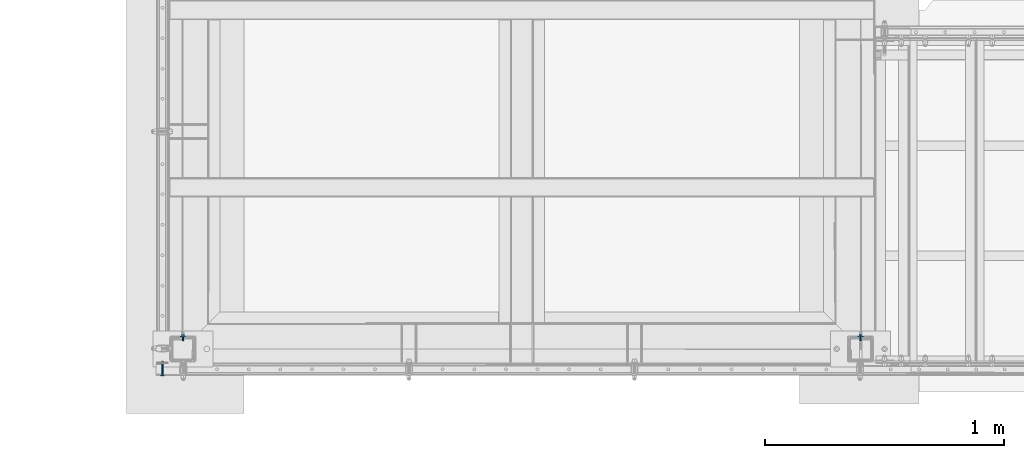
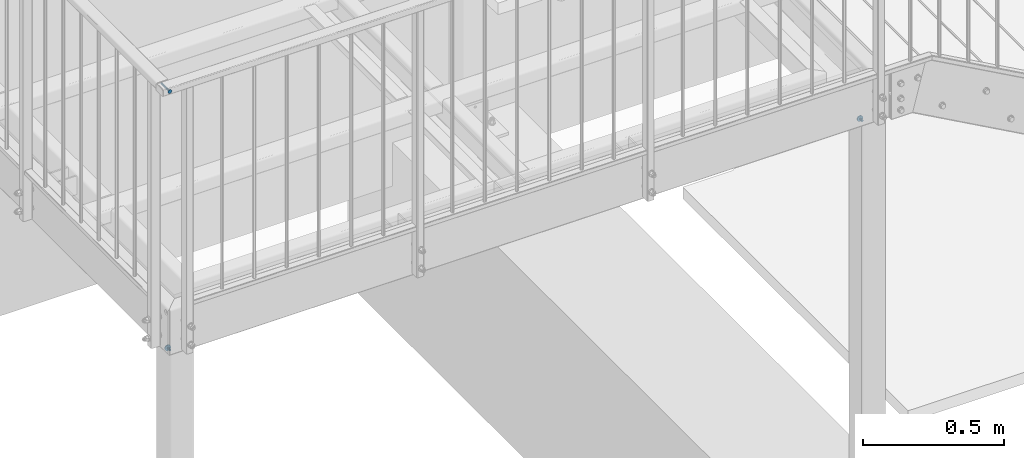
# One storey, part 34 of 116: 3 mechanical fasteners.
"""IFC2X3 building model written with IfcOpenShell, lengths in millimetres."""

from ifc_helpers import new_model, entity, si_unit, converted_unit, origin_with_axes, place, context, project, spatial, faceted_brep, element, save


model = new_model("IFC2X3")

# Units and contexts
model_context = context("Model", 3, precision=1e-09, world=origin_with_axes())
ifc_project = project(units=[si_unit("LENGTHUNIT", "METRE", prefix="MILLI"), si_unit("AREAUNIT", "SQUARE_METRE"), si_unit("VOLUMEUNIT", "CUBIC_METRE"), converted_unit("PLANEANGLEUNIT", "DEGREE", entity("IfcPlaneAngleMeasure", 0.01745329), si_unit("PLANEANGLEUNIT", "RADIAN"), dimensions=[0, 0, 0, 0, 0, 0, 0])], contexts=[model_context])

# Site, building, storey
site_placement = place(None, origin_with_axes())
site = spatial("IfcSite", under=ifc_project, at=site_placement, Name="Site", CompositionType="ELEMENT")
building_placement = place(site_placement, origin_with_axes())
building = spatial("IfcBuilding", under=site, at=building_placement, Name="Struktur 1", CompositionType="ELEMENT")
storey_placement = place(building_placement, origin_with_axes())
storey = spatial("IfcBuildingStorey", under=building, at=storey_placement, Name="Default Storey", CompositionType="ELEMENT", Elevation=0.0)

# Mechanical fasteners
mechanical_fastener_1_placement = place(None, origin_with_axes())
element("IfcMechanicalFastener", 1, at=mechanical_fastener_1_placement, inside=storey, ObjectType="-", NominalDiameter=8.0, NominalLength=55.0, context=model_context, shape_type="Brep", body=[
    faceted_brep([(55260.049134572, 9022.359883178, 980.0), (55260.049134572, 9021.359883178, 980.0), (55259.895416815, 9021.359883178, 978.439277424), (55259.895416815, 9022.359883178, 978.439277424), (55259.440170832, 9021.359883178, 976.938532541), (55259.440170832, 9022.359883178, 976.938532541), (55258.70089147, 9021.359883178, 975.555438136), (55258.70089147, 9022.359883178, 975.555438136), (55257.705988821, 9021.359883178, 974.343145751), (55257.705988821, 9022.359883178, 974.343145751), (55256.493696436, 9021.359883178, 973.348243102), (55256.493696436, 9022.359883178, 973.348243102), (55255.110602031, 9021.359883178, 972.60896374), (55255.110602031, 9022.359883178, 972.60896374), (55253.609857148, 9021.359883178, 972.153717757), (55253.609857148, 9022.359883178, 972.153717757), (55252.049134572, 9021.359883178, 972.0), (55252.049134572, 9022.359883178, 972.0), (55250.488411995, 9021.359883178, 972.153717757), (55250.488411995, 9022.359883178, 972.153717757), (55248.987667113, 9021.359883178, 972.60896374), (55248.987667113, 9022.359883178, 972.60896374), (55247.604572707, 9021.359883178, 973.348243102), (55247.604572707, 9022.359883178, 973.348243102), (55246.392280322, 9021.359883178, 974.343145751), (55246.392280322, 9022.359883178, 974.343145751), (55245.397377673, 9021.359883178, 975.555438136), (55245.397377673, 9022.359883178, 975.555438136), (55244.658098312, 9021.359883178, 976.938532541), (55244.658098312, 9022.359883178, 976.938532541), (55244.202852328, 9021.359883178, 978.439277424), (55244.202852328, 9022.359883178, 978.439277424), (55244.049134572, 9021.359883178, 980.0), (55244.049134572, 9022.359883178, 980.0), (55244.202852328, 9021.359883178, 981.560722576), (55244.202852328, 9022.359883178, 981.560722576), (55244.658098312, 9021.359883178, 983.061467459), (55244.658098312, 9022.359883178, 983.061467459), (55245.397377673, 9021.359883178, 984.444561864), (55245.397377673, 9022.359883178, 984.444561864), (55246.392280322, 9021.359883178, 985.65685425), (55246.392280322, 9022.359883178, 985.65685425), (55247.604572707, 9021.359883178, 986.651756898), (55247.604572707, 9022.359883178, 986.651756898), (55248.987667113, 9021.359883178, 987.39103626), (55248.987667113, 9022.359883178, 987.39103626), (55250.488411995, 9021.359883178, 987.846282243), (55250.488411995, 9022.359883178, 987.846282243), (55252.049134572, 9021.359883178, 988.0), (55252.049134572, 9022.359883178, 988.0), (55253.609857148, 9021.359883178, 987.846282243), (55253.609857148, 9022.359883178, 987.846282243), (55255.110602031, 9021.359883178, 987.39103626), (55255.110602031, 9022.359883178, 987.39103626), (55256.493696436, 9021.359883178, 986.651756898), (55256.493696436, 9022.359883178, 986.651756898), (55257.705988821, 9021.359883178, 985.65685425), (55257.705988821, 9022.359883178, 985.65685425), (55258.70089147, 9021.359883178, 984.444561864), (55258.70089147, 9022.359883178, 984.444561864), (55259.440170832, 9021.359883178, 983.061467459), (55259.440170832, 9022.359883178, 983.061467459), (55259.895416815, 9021.359883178, 981.560722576), (55259.895416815, 9022.359883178, 981.560722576)], [[[0, 1, 2, 3]], [[3, 2, 4, 5]], [[5, 4, 6, 7]], [[7, 6, 8, 9]], [[9, 8, 10, 11]], [[11, 10, 12, 13]], [[13, 12, 14, 15]], [[15, 14, 16, 17]], [[17, 16, 18, 19]], [[19, 18, 20, 21]], [[21, 20, 22, 23]], [[23, 22, 24, 25]], [[25, 24, 26, 27]], [[27, 26, 28, 29]], [[29, 28, 30, 31]], [[31, 30, 32, 33]], [[33, 32, 34, 35]], [[35, 34, 36, 37]], [[37, 36, 38, 39]], [[39, 38, 40, 41]], [[41, 40, 42, 43]], [[43, 42, 44, 45]], [[45, 44, 46, 47]], [[47, 46, 48, 49]], [[49, 48, 50, 51]], [[51, 50, 52, 53]], [[53, 52, 54, 55]], [[55, 54, 56, 57]], [[57, 56, 58, 59]], [[59, 58, 60, 61]], [[61, 60, 62, 63]], [[63, 62, 1, 0]], [[2, 1, 62, 60, 58, 56, 54, 52, 50, 48, 46, 44, 42, 40, 38, 36, 34, 32, 30, 28, 26, 24, 22, 20, 18, 16, 14, 12, 10, 8, 6, 4]], [[63, 0, 3, 5, 7, 9, 11, 13, 15, 17, 19, 21, 23, 25, 27, 29, 31, 33, 35, 37, 39, 41, 43, 45, 47, 49, 51, 53, 55, 57, 59, 61]]]),
    faceted_brep([(55256.049134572, 9080.358883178, 980.0), (55256.049134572, 9022.359883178, 980.0), (55255.744652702, 9022.359883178, 978.469266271), (55255.744652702, 9080.358883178, 978.469266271), (55254.877561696, 9022.359883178, 977.171572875), (55254.877561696, 9080.358883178, 977.171572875), (55253.579868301, 9022.359883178, 976.30448187), (55253.579868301, 9080.358883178, 976.30448187), (55252.049134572, 9022.359883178, 976.0), (55252.049134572, 9080.358883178, 976.0), (55250.518400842, 9022.359883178, 976.30448187), (55250.518400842, 9080.358883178, 976.30448187), (55249.220707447, 9022.359883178, 977.171572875), (55249.220707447, 9080.358883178, 977.171572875), (55248.353616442, 9022.359883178, 978.469266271), (55248.353616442, 9080.358883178, 978.469266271), (55248.049134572, 9022.359883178, 980.0), (55248.049134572, 9080.358883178, 980.0), (55248.353616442, 9022.359883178, 981.530733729), (55248.353616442, 9080.358883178, 981.530733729), (55249.220707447, 9022.359883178, 982.828427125), (55249.220707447, 9080.358883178, 982.828427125), (55250.518400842, 9022.359883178, 983.69551813), (55250.518400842, 9080.358883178, 983.69551813), (55252.049134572, 9022.359883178, 984.0), (55252.049134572, 9080.358883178, 984.0), (55253.579868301, 9022.359883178, 983.69551813), (55253.579868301, 9080.358883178, 983.69551813), (55254.877561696, 9022.359883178, 982.828427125), (55254.877561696, 9080.358883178, 982.828427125), (55255.744652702, 9022.359883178, 981.530733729), (55255.744652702, 9080.358883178, 981.530733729)], [[[0, 1, 2, 3]], [[3, 2, 4, 5]], [[5, 4, 6, 7]], [[7, 6, 8, 9]], [[9, 8, 10, 11]], [[11, 10, 12, 13]], [[13, 12, 14, 15]], [[15, 14, 16, 17]], [[17, 16, 18, 19]], [[19, 18, 20, 21]], [[21, 20, 22, 23]], [[23, 22, 24, 25]], [[25, 24, 26, 27]], [[27, 26, 28, 29]], [[29, 28, 30, 31]], [[31, 30, 1, 0]], [[2, 1, 30, 28, 26, 24, 22, 20, 18, 16, 14, 12, 10, 8, 6, 4]], [[31, 0, 3, 5, 7, 9, 11, 13, 15, 17, 19, 21, 23, 25, 27, 29]]]),
])
mechanical_fastener_2_placement = place(None, origin_with_axes())
element("IfcMechanicalFastener", 2, at=mechanical_fastener_2_placement, inside=storey, ObjectType="-", NominalDiameter=8.0, NominalLength=20.0, context=model_context, shape_type="Brep", body=[
    faceted_brep([(58179.049134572, 9184.358883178, -255.0), (58179.049134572, 9182.358883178, -255.0), (58178.818557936, 9182.358883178, -257.341083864), (58178.818557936, 9184.358883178, -257.341083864), (58178.135688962, 9182.358883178, -259.592201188), (58178.135688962, 9184.358883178, -259.592201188), (58177.026769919, 9182.358883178, -261.666842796), (58177.026769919, 9184.358883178, -261.666842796), (58175.534415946, 9182.358883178, -263.485281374), (58175.534415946, 9184.358883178, -263.485281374), (58173.715977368, 9182.358883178, -264.977635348), (58173.715977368, 9184.358883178, -264.977635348), (58171.64133576, 9182.358883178, -266.08655439), (58171.64133576, 9184.358883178, -266.08655439), (58169.390218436, 9182.358883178, -266.769423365), (58169.390218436, 9184.358883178, -266.769423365), (58167.049134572, 9182.358883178, -267.0), (58167.049134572, 9184.358883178, -267.0), (58164.708050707, 9182.358883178, -266.769423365), (58164.708050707, 9184.358883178, -266.769423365), (58162.456933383, 9182.358883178, -266.08655439), (58162.456933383, 9184.358883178, -266.08655439), (58160.382291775, 9182.358883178, -264.977635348), (58160.382291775, 9184.358883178, -264.977635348), (58158.563853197, 9182.358883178, -263.485281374), (58158.563853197, 9184.358883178, -263.485281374), (58157.071499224, 9182.358883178, -261.666842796), (58157.071499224, 9184.358883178, -261.666842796), (58155.962580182, 9182.358883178, -259.592201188), (58155.962580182, 9184.358883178, -259.592201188), (58155.279711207, 9182.358883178, -257.341083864), (58155.279711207, 9184.358883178, -257.341083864), (58155.049134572, 9182.358883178, -255.0), (58155.049134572, 9184.358883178, -255.0), (58155.279711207, 9182.358883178, -252.658916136), (58155.279711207, 9184.358883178, -252.658916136), (58155.962580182, 9182.358883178, -250.407798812), (58155.962580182, 9184.358883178, -250.407798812), (58157.071499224, 9182.358883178, -248.333157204), (58157.071499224, 9184.358883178, -248.333157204), (58158.563853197, 9182.358883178, -246.514718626), (58158.563853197, 9184.358883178, -246.514718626), (58160.382291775, 9182.358883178, -245.022364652), (58160.382291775, 9184.358883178, -245.022364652), (58162.456933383, 9182.358883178, -243.91344561), (58162.456933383, 9184.358883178, -243.91344561), (58164.708050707, 9182.358883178, -243.230576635), (58164.708050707, 9184.358883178, -243.230576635), (58167.049134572, 9182.358883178, -243.0), (58167.049134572, 9184.358883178, -243.0), (58169.390218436, 9182.358883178, -243.230576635), (58169.390218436, 9184.358883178, -243.230576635), (58171.64133576, 9182.358883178, -243.91344561), (58171.64133576, 9184.358883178, -243.91344561), (58173.715977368, 9182.358883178, -245.022364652), (58173.715977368, 9184.358883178, -245.022364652), (58175.534415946, 9182.358883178, -246.514718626), (58175.534415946, 9184.358883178, -246.514718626), (58177.026769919, 9182.358883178, -248.333157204), (58177.026769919, 9184.358883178, -248.333157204), (58178.135688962, 9182.358883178, -250.407798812), (58178.135688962, 9184.358883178, -250.407798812), (58178.818557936, 9182.358883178, -252.658916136), (58178.818557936, 9184.358883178, -252.658916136)], [[[0, 1, 2, 3]], [[3, 2, 4, 5]], [[5, 4, 6, 7]], [[7, 6, 8, 9]], [[9, 8, 10, 11]], [[11, 10, 12, 13]], [[13, 12, 14, 15]], [[15, 14, 16, 17]], [[17, 16, 18, 19]], [[19, 18, 20, 21]], [[21, 20, 22, 23]], [[23, 22, 24, 25]], [[25, 24, 26, 27]], [[27, 26, 28, 29]], [[29, 28, 30, 31]], [[31, 30, 32, 33]], [[33, 32, 34, 35]], [[35, 34, 36, 37]], [[37, 36, 38, 39]], [[39, 38, 40, 41]], [[41, 40, 42, 43]], [[43, 42, 44, 45]], [[45, 44, 46, 47]], [[47, 46, 48, 49]], [[49, 48, 50, 51]], [[51, 50, 52, 53]], [[53, 52, 54, 55]], [[55, 54, 56, 57]], [[57, 56, 58, 59]], [[59, 58, 60, 61]], [[61, 60, 62, 63]], [[63, 62, 1, 0]], [[0, 3, 5, 7, 9, 11, 13, 15, 17, 19, 21, 23, 25, 27, 29, 31, 33, 35, 37, 39, 41, 43, 45, 47, 49, 51, 53, 55, 57, 59, 61, 63]], [[1, 62, 60, 58, 56, 54, 52, 50, 48, 46, 44, 42, 40, 38, 36, 34, 32, 30, 28, 26, 24, 22, 20, 18, 16, 14, 12, 10, 8, 6, 4, 2]]]),
    faceted_brep([(58179.049134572, 9186.358883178, -255.0), (58179.049134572, 9184.358883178, -255.0), (58178.818557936, 9184.358883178, -257.341083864), (58178.818557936, 9186.358883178, -257.341083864), (58178.135688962, 9184.358883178, -259.592201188), (58178.135688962, 9186.358883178, -259.592201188), (58177.026769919, 9184.358883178, -261.666842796), (58177.026769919, 9186.358883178, -261.666842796), (58175.534415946, 9184.358883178, -263.485281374), (58175.534415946, 9186.358883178, -263.485281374), (58173.715977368, 9184.358883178, -264.977635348), (58173.715977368, 9186.358883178, -264.977635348), (58171.64133576, 9184.358883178, -266.08655439), (58171.64133576, 9186.358883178, -266.08655439), (58169.390218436, 9184.358883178, -266.769423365), (58169.390218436, 9186.358883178, -266.769423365), (58167.049134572, 9184.358883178, -267.0), (58167.049134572, 9186.358883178, -267.0), (58164.708050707, 9184.358883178, -266.769423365), (58164.708050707, 9186.358883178, -266.769423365), (58162.456933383, 9184.358883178, -266.08655439), (58162.456933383, 9186.358883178, -266.08655439), (58160.382291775, 9184.358883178, -264.977635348), (58160.382291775, 9186.358883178, -264.977635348), (58158.563853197, 9184.358883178, -263.485281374), (58158.563853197, 9186.358883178, -263.485281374), (58157.071499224, 9184.358883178, -261.666842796), (58157.071499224, 9186.358883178, -261.666842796), (58155.962580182, 9184.358883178, -259.592201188), (58155.962580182, 9186.358883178, -259.592201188), (58155.279711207, 9184.358883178, -257.341083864), (58155.279711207, 9186.358883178, -257.341083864), (58155.049134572, 9184.358883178, -255.0), (58155.049134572, 9186.358883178, -255.0), (58155.279711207, 9184.358883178, -252.658916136), (58155.279711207, 9186.358883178, -252.658916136), (58155.962580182, 9184.358883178, -250.407798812), (58155.962580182, 9186.358883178, -250.407798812), (58157.071499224, 9184.358883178, -248.333157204), (58157.071499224, 9186.358883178, -248.333157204), (58158.563853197, 9184.358883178, -246.514718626), (58158.563853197, 9186.358883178, -246.514718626), (58160.382291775, 9184.358883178, -245.022364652), (58160.382291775, 9186.358883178, -245.022364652), (58162.456933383, 9184.358883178, -243.91344561), (58162.456933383, 9186.358883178, -243.91344561), (58164.708050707, 9184.358883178, -243.230576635), (58164.708050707, 9186.358883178, -243.230576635), (58167.049134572, 9184.358883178, -243.0), (58167.049134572, 9186.358883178, -243.0), (58169.390218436, 9184.358883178, -243.230576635), (58169.390218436, 9186.358883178, -243.230576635), (58171.64133576, 9184.358883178, -243.91344561), (58171.64133576, 9186.358883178, -243.91344561), (58173.715977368, 9184.358883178, -245.022364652), (58173.715977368, 9186.358883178, -245.022364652), (58175.534415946, 9184.358883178, -246.514718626), (58175.534415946, 9186.358883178, -246.514718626), (58177.026769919, 9184.358883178, -248.333157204), (58177.026769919, 9186.358883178, -248.333157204), (58178.135688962, 9184.358883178, -250.407798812), (58178.135688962, 9186.358883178, -250.407798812), (58178.818557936, 9184.358883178, -252.658916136), (58178.818557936, 9186.358883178, -252.658916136)], [[[0, 1, 2, 3]], [[3, 2, 4, 5]], [[5, 4, 6, 7]], [[7, 6, 8, 9]], [[9, 8, 10, 11]], [[11, 10, 12, 13]], [[13, 12, 14, 15]], [[15, 14, 16, 17]], [[17, 16, 18, 19]], [[19, 18, 20, 21]], [[21, 20, 22, 23]], [[23, 22, 24, 25]], [[25, 24, 26, 27]], [[27, 26, 28, 29]], [[29, 28, 30, 31]], [[31, 30, 32, 33]], [[33, 32, 34, 35]], [[35, 34, 36, 37]], [[37, 36, 38, 39]], [[39, 38, 40, 41]], [[41, 40, 42, 43]], [[43, 42, 44, 45]], [[45, 44, 46, 47]], [[47, 46, 48, 49]], [[49, 48, 50, 51]], [[51, 50, 52, 53]], [[53, 52, 54, 55]], [[55, 54, 56, 57]], [[57, 56, 58, 59]], [[59, 58, 60, 61]], [[61, 60, 62, 63]], [[63, 62, 1, 0]], [[0, 3, 5, 7, 9, 11, 13, 15, 17, 19, 21, 23, 25, 27, 29, 31, 33, 35, 37, 39, 41, 43, 45, 47, 49, 51, 53, 55, 57, 59, 61, 63]], [[1, 62, 60, 58, 56, 54, 52, 50, 48, 46, 44, 42, 40, 38, 36, 34, 32, 30, 28, 26, 24, 22, 20, 18, 16, 14, 12, 10, 8, 6, 4, 2]]]),
    faceted_brep([(58160.822411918, 9186.358883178, -258.595), (58160.822411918, 9191.658883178, -258.595), (58167.049134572, 9191.658883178, -262.19), (58167.049134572, 9186.358883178, -262.19), (58173.275857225, 9191.658883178, -258.595), (58173.275857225, 9186.358883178, -258.595), (58173.275857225, 9191.658883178, -251.405), (58173.275857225, 9186.358883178, -251.405), (58167.049134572, 9191.658883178, -247.81), (58167.049134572, 9186.358883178, -247.81), (58160.822411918, 9191.658883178, -251.405), (58160.822411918, 9186.358883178, -251.405)], [[[0, 1, 2, 3]], [[3, 2, 4, 5]], [[5, 4, 6, 7]], [[7, 6, 8, 9]], [[9, 8, 10, 11]], [[11, 10, 1, 0]], [[4, 2, 1, 10, 8, 6]], [[0, 3, 5, 7, 9, 11]]]),
    faceted_brep([(58171.049134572, 9182.358883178, -255.0), (58171.049134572, 9173.358883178, -255.0), (58170.744652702, 9173.358883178, -256.530733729), (58170.744652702, 9182.358883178, -256.530733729), (58169.877561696, 9173.358883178, -257.828427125), (58169.877561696, 9182.358883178, -257.828427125), (58168.579868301, 9173.358883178, -258.69551813), (58168.579868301, 9182.358883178, -258.69551813), (58167.049134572, 9173.358883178, -259.0), (58167.049134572, 9182.358883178, -259.0), (58165.518400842, 9173.358883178, -258.69551813), (58165.518400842, 9182.358883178, -258.69551813), (58164.220707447, 9173.358883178, -257.828427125), (58164.220707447, 9182.358883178, -257.828427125), (58163.353616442, 9173.358883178, -256.530733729), (58163.353616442, 9182.358883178, -256.530733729), (58163.049134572, 9173.358883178, -255.0), (58163.049134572, 9182.358883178, -255.0), (58163.353616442, 9173.358883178, -253.46926627), (58163.353616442, 9182.358883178, -253.46926627), (58164.220707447, 9173.358883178, -252.171572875), (58164.220707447, 9182.358883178, -252.171572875), (58165.518400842, 9173.358883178, -251.30448187), (58165.518400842, 9182.358883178, -251.30448187), (58167.049134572, 9173.358883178, -251.0), (58167.049134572, 9182.358883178, -251.0), (58168.579868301, 9173.358883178, -251.30448187), (58168.579868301, 9182.358883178, -251.30448187), (58169.877561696, 9173.358883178, -252.171572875), (58169.877561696, 9182.358883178, -252.171572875), (58170.744652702, 9173.358883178, -253.46926627), (58170.744652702, 9182.358883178, -253.46926627)], [[[0, 1, 2, 3]], [[3, 2, 4, 5]], [[5, 4, 6, 7]], [[7, 6, 8, 9]], [[9, 8, 10, 11]], [[11, 10, 12, 13]], [[13, 12, 14, 15]], [[15, 14, 16, 17]], [[17, 16, 18, 19]], [[19, 18, 20, 21]], [[21, 20, 22, 23]], [[23, 22, 24, 25]], [[25, 24, 26, 27]], [[27, 26, 28, 29]], [[29, 28, 30, 31]], [[31, 30, 1, 0]], [[0, 3, 5, 7, 9, 11, 13, 15, 17, 19, 21, 23, 25, 27, 29, 31]], [[1, 30, 28, 26, 24, 22, 20, 18, 16, 14, 12, 10, 8, 6, 4, 2]]]),
    faceted_brep([(58171.049134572, 9173.358883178, -255.0), (58171.049134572, 9166.358883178, -255.0), (58170.744652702, 9166.358883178, -256.530733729), (58170.744652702, 9173.358883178, -256.530733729), (58169.877561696, 9166.358883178, -257.828427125), (58169.877561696, 9173.358883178, -257.828427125), (58168.579868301, 9166.358883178, -258.69551813), (58168.579868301, 9173.358883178, -258.69551813), (58167.049134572, 9166.358883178, -259.0), (58167.049134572, 9173.358883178, -259.0), (58165.518400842, 9166.358883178, -258.69551813), (58165.518400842, 9173.358883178, -258.69551813), (58164.220707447, 9166.358883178, -257.828427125), (58164.220707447, 9173.358883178, -257.828427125), (58163.353616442, 9166.358883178, -256.530733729), (58163.353616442, 9173.358883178, -256.530733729), (58163.049134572, 9166.358883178, -255.0), (58163.049134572, 9173.358883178, -255.0), (58163.353616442, 9166.358883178, -253.46926627), (58163.353616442, 9173.358883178, -253.46926627), (58164.220707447, 9166.358883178, -252.171572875), (58164.220707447, 9173.358883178, -252.171572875), (58165.518400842, 9166.358883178, -251.30448187), (58165.518400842, 9173.358883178, -251.30448187), (58167.049134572, 9166.358883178, -251.0), (58167.049134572, 9173.358883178, -251.0), (58168.579868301, 9166.358883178, -251.30448187), (58168.579868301, 9173.358883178, -251.30448187), (58169.877561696, 9166.358883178, -252.171572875), (58169.877561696, 9173.358883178, -252.171572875), (58170.744652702, 9166.358883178, -253.46926627), (58170.744652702, 9173.358883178, -253.46926627)], [[[0, 1, 2, 3]], [[3, 2, 4, 5]], [[5, 4, 6, 7]], [[7, 6, 8, 9]], [[9, 8, 10, 11]], [[11, 10, 12, 13]], [[13, 12, 14, 15]], [[15, 14, 16, 17]], [[17, 16, 18, 19]], [[19, 18, 20, 21]], [[21, 20, 22, 23]], [[23, 22, 24, 25]], [[25, 24, 26, 27]], [[27, 26, 28, 29]], [[29, 28, 30, 31]], [[31, 30, 1, 0]], [[0, 3, 5, 7, 9, 11, 13, 15, 17, 19, 21, 23, 25, 27, 29, 31]], [[1, 30, 28, 26, 24, 22, 20, 18, 16, 14, 12, 10, 8, 6, 4, 2]]]),
])
mechanical_fastener_3_placement = place(None, origin_with_axes())
element("IfcMechanicalFastener", 3, at=mechanical_fastener_3_placement, inside=storey, ObjectType="-", NominalDiameter=8.0, NominalLength=20.0, context=model_context, shape_type="Brep", body=[
    faceted_brep([(55325.049134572, 9182.358883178, -255.0), (55325.049134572, 9184.358883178, -255.0), (55325.279711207, 9184.358883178, -257.341083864), (55325.279711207, 9182.358883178, -257.341083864), (55325.962580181, 9184.358883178, -259.592201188), (55325.962580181, 9182.358883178, -259.592201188), (55327.071499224, 9184.358883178, -261.666842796), (55327.071499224, 9182.358883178, -261.666842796), (55328.563853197, 9184.358883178, -263.485281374), (55328.563853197, 9182.358883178, -263.485281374), (55330.382291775, 9184.358883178, -264.977635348), (55330.382291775, 9182.358883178, -264.977635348), (55332.456933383, 9184.358883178, -266.08655439), (55332.456933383, 9182.358883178, -266.08655439), (55334.708050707, 9184.358883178, -266.769423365), (55334.708050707, 9182.358883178, -266.769423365), (55337.049134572, 9184.358883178, -267.0), (55337.049134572, 9182.358883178, -267.0), (55339.390218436, 9184.358883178, -266.769423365), (55339.390218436, 9182.358883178, -266.769423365), (55341.64133576, 9184.358883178, -266.08655439), (55341.64133576, 9182.358883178, -266.08655439), (55343.715977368, 9184.358883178, -264.977635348), (55343.715977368, 9182.358883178, -264.977635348), (55345.534415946, 9184.358883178, -263.485281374), (55345.534415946, 9182.358883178, -263.485281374), (55347.026769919, 9184.358883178, -261.666842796), (55347.026769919, 9182.358883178, -261.666842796), (55348.135688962, 9184.358883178, -259.592201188), (55348.135688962, 9182.358883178, -259.592201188), (55348.818557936, 9184.358883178, -257.341083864), (55348.818557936, 9182.358883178, -257.341083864), (55349.049134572, 9184.358883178, -255.0), (55349.049134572, 9182.358883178, -255.0), (55348.818557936, 9184.358883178, -252.658916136), (55348.818557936, 9182.358883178, -252.658916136), (55348.135688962, 9184.358883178, -250.407798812), (55348.135688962, 9182.358883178, -250.407798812), (55347.026769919, 9184.358883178, -248.333157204), (55347.026769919, 9182.358883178, -248.333157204), (55345.534415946, 9184.358883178, -246.514718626), (55345.534415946, 9182.358883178, -246.514718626), (55343.715977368, 9184.358883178, -245.022364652), (55343.715977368, 9182.358883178, -245.022364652), (55341.64133576, 9184.358883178, -243.91344561), (55341.64133576, 9182.358883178, -243.91344561), (55339.390218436, 9184.358883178, -243.230576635), (55339.390218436, 9182.358883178, -243.230576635), (55337.049134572, 9184.358883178, -243.0), (55337.049134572, 9182.358883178, -243.0), (55334.708050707, 9184.358883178, -243.230576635), (55334.708050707, 9182.358883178, -243.230576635), (55332.456933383, 9184.358883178, -243.91344561), (55332.456933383, 9182.358883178, -243.91344561), (55330.382291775, 9184.358883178, -245.022364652), (55330.382291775, 9182.358883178, -245.022364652), (55328.563853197, 9184.358883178, -246.514718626), (55328.563853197, 9182.358883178, -246.514718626), (55327.071499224, 9184.358883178, -248.333157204), (55327.071499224, 9182.358883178, -248.333157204), (55325.962580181, 9184.358883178, -250.407798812), (55325.962580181, 9182.358883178, -250.407798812), (55325.279711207, 9184.358883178, -252.658916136), (55325.279711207, 9182.358883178, -252.658916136)], [[[0, 1, 2, 3]], [[3, 2, 4, 5]], [[5, 4, 6, 7]], [[7, 6, 8, 9]], [[9, 8, 10, 11]], [[11, 10, 12, 13]], [[13, 12, 14, 15]], [[15, 14, 16, 17]], [[17, 16, 18, 19]], [[19, 18, 20, 21]], [[21, 20, 22, 23]], [[23, 22, 24, 25]], [[25, 24, 26, 27]], [[27, 26, 28, 29]], [[29, 28, 30, 31]], [[31, 30, 32, 33]], [[33, 32, 34, 35]], [[35, 34, 36, 37]], [[37, 36, 38, 39]], [[39, 38, 40, 41]], [[41, 40, 42, 43]], [[43, 42, 44, 45]], [[45, 44, 46, 47]], [[47, 46, 48, 49]], [[49, 48, 50, 51]], [[51, 50, 52, 53]], [[53, 52, 54, 55]], [[55, 54, 56, 57]], [[57, 56, 58, 59]], [[59, 58, 60, 61]], [[61, 60, 62, 63]], [[63, 62, 1, 0]], [[2, 1, 62, 60, 58, 56, 54, 52, 50, 48, 46, 44, 42, 40, 38, 36, 34, 32, 30, 28, 26, 24, 22, 20, 18, 16, 14, 12, 10, 8, 6, 4]], [[63, 0, 3, 5, 7, 9, 11, 13, 15, 17, 19, 21, 23, 25, 27, 29, 31, 33, 35, 37, 39, 41, 43, 45, 47, 49, 51, 53, 55, 57, 59, 61]]]),
    faceted_brep([(55325.049134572, 9184.358883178, -255.0), (55325.049134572, 9186.358883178, -255.0), (55325.279711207, 9186.358883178, -257.341083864), (55325.279711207, 9184.358883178, -257.341083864), (55325.962580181, 9186.358883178, -259.592201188), (55325.962580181, 9184.358883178, -259.592201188), (55327.071499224, 9186.358883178, -261.666842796), (55327.071499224, 9184.358883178, -261.666842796), (55328.563853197, 9186.358883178, -263.485281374), (55328.563853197, 9184.358883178, -263.485281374), (55330.382291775, 9186.358883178, -264.977635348), (55330.382291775, 9184.358883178, -264.977635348), (55332.456933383, 9186.358883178, -266.08655439), (55332.456933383, 9184.358883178, -266.08655439), (55334.708050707, 9186.358883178, -266.769423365), (55334.708050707, 9184.358883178, -266.769423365), (55337.049134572, 9186.358883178, -267.0), (55337.049134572, 9184.358883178, -267.0), (55339.390218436, 9186.358883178, -266.769423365), (55339.390218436, 9184.358883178, -266.769423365), (55341.64133576, 9186.358883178, -266.08655439), (55341.64133576, 9184.358883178, -266.08655439), (55343.715977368, 9186.358883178, -264.977635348), (55343.715977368, 9184.358883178, -264.977635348), (55345.534415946, 9186.358883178, -263.485281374), (55345.534415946, 9184.358883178, -263.485281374), (55347.026769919, 9186.358883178, -261.666842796), (55347.026769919, 9184.358883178, -261.666842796), (55348.135688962, 9186.358883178, -259.592201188), (55348.135688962, 9184.358883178, -259.592201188), (55348.818557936, 9186.358883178, -257.341083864), (55348.818557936, 9184.358883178, -257.341083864), (55349.049134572, 9186.358883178, -255.0), (55349.049134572, 9184.358883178, -255.0), (55348.818557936, 9186.358883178, -252.658916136), (55348.818557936, 9184.358883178, -252.658916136), (55348.135688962, 9186.358883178, -250.407798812), (55348.135688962, 9184.358883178, -250.407798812), (55347.026769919, 9186.358883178, -248.333157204), (55347.026769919, 9184.358883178, -248.333157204), (55345.534415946, 9186.358883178, -246.514718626), (55345.534415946, 9184.358883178, -246.514718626), (55343.715977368, 9186.358883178, -245.022364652), (55343.715977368, 9184.358883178, -245.022364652), (55341.64133576, 9186.358883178, -243.91344561), (55341.64133576, 9184.358883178, -243.91344561), (55339.390218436, 9186.358883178, -243.230576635), (55339.390218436, 9184.358883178, -243.230576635), (55337.049134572, 9186.358883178, -243.0), (55337.049134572, 9184.358883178, -243.0), (55334.708050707, 9186.358883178, -243.230576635), (55334.708050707, 9184.358883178, -243.230576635), (55332.456933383, 9186.358883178, -243.91344561), (55332.456933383, 9184.358883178, -243.91344561), (55330.382291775, 9186.358883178, -245.022364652), (55330.382291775, 9184.358883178, -245.022364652), (55328.563853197, 9186.358883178, -246.514718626), (55328.563853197, 9184.358883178, -246.514718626), (55327.071499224, 9186.358883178, -248.333157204), (55327.071499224, 9184.358883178, -248.333157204), (55325.962580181, 9186.358883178, -250.407798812), (55325.962580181, 9184.358883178, -250.407798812), (55325.279711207, 9186.358883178, -252.658916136), (55325.279711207, 9184.358883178, -252.658916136)], [[[0, 1, 2, 3]], [[3, 2, 4, 5]], [[5, 4, 6, 7]], [[7, 6, 8, 9]], [[9, 8, 10, 11]], [[11, 10, 12, 13]], [[13, 12, 14, 15]], [[15, 14, 16, 17]], [[17, 16, 18, 19]], [[19, 18, 20, 21]], [[21, 20, 22, 23]], [[23, 22, 24, 25]], [[25, 24, 26, 27]], [[27, 26, 28, 29]], [[29, 28, 30, 31]], [[31, 30, 32, 33]], [[33, 32, 34, 35]], [[35, 34, 36, 37]], [[37, 36, 38, 39]], [[39, 38, 40, 41]], [[41, 40, 42, 43]], [[43, 42, 44, 45]], [[45, 44, 46, 47]], [[47, 46, 48, 49]], [[49, 48, 50, 51]], [[51, 50, 52, 53]], [[53, 52, 54, 55]], [[55, 54, 56, 57]], [[57, 56, 58, 59]], [[59, 58, 60, 61]], [[61, 60, 62, 63]], [[63, 62, 1, 0]], [[2, 1, 62, 60, 58, 56, 54, 52, 50, 48, 46, 44, 42, 40, 38, 36, 34, 32, 30, 28, 26, 24, 22, 20, 18, 16, 14, 12, 10, 8, 6, 4]], [[63, 0, 3, 5, 7, 9, 11, 13, 15, 17, 19, 21, 23, 25, 27, 29, 31, 33, 35, 37, 39, 41, 43, 45, 47, 49, 51, 53, 55, 57, 59, 61]]]),
    faceted_brep([(55343.275857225, 9191.658883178, -258.595), (55343.275857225, 9186.358883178, -258.595), (55337.049134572, 9186.358883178, -262.19), (55337.049134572, 9191.658883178, -262.19), (55330.822411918, 9186.358883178, -258.595), (55330.822411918, 9191.658883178, -258.595), (55330.822411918, 9186.358883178, -251.405), (55330.822411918, 9191.658883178, -251.405), (55337.049134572, 9186.358883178, -247.81), (55337.049134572, 9191.658883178, -247.81), (55343.275857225, 9186.358883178, -251.405), (55343.275857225, 9191.658883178, -251.405)], [[[0, 1, 2, 3]], [[3, 2, 4, 5]], [[5, 4, 6, 7]], [[7, 6, 8, 9]], [[9, 8, 10, 11]], [[11, 10, 1, 0]], [[3, 5, 7, 9, 11, 0]], [[2, 1, 10, 8, 6, 4]]]),
    faceted_brep([(55333.049134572, 9173.358883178, -255.0), (55333.049134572, 9182.358883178, -255.0), (55333.353616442, 9182.358883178, -256.530733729), (55333.353616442, 9173.358883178, -256.530733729), (55334.220707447, 9182.358883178, -257.828427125), (55334.220707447, 9173.358883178, -257.828427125), (55335.518400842, 9182.358883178, -258.69551813), (55335.518400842, 9173.358883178, -258.69551813), (55337.049134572, 9182.358883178, -259.0), (55337.049134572, 9173.358883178, -259.0), (55338.579868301, 9182.358883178, -258.69551813), (55338.579868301, 9173.358883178, -258.69551813), (55339.877561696, 9182.358883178, -257.828427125), (55339.877561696, 9173.358883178, -257.828427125), (55340.744652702, 9182.358883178, -256.530733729), (55340.744652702, 9173.358883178, -256.530733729), (55341.049134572, 9182.358883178, -255.0), (55341.049134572, 9173.358883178, -255.0), (55340.744652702, 9182.358883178, -253.46926627), (55340.744652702, 9173.358883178, -253.46926627), (55339.877561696, 9182.358883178, -252.171572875), (55339.877561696, 9173.358883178, -252.171572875), (55338.579868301, 9182.358883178, -251.30448187), (55338.579868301, 9173.358883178, -251.30448187), (55337.049134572, 9182.358883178, -251.0), (55337.049134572, 9173.358883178, -251.0), (55335.518400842, 9182.358883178, -251.30448187), (55335.518400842, 9173.358883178, -251.30448187), (55334.220707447, 9182.358883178, -252.171572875), (55334.220707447, 9173.358883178, -252.171572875), (55333.353616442, 9182.358883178, -253.46926627), (55333.353616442, 9173.358883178, -253.46926627)], [[[0, 1, 2, 3]], [[3, 2, 4, 5]], [[5, 4, 6, 7]], [[7, 6, 8, 9]], [[9, 8, 10, 11]], [[11, 10, 12, 13]], [[13, 12, 14, 15]], [[15, 14, 16, 17]], [[17, 16, 18, 19]], [[19, 18, 20, 21]], [[21, 20, 22, 23]], [[23, 22, 24, 25]], [[25, 24, 26, 27]], [[27, 26, 28, 29]], [[29, 28, 30, 31]], [[31, 30, 1, 0]], [[2, 1, 30, 28, 26, 24, 22, 20, 18, 16, 14, 12, 10, 8, 6, 4]], [[31, 0, 3, 5, 7, 9, 11, 13, 15, 17, 19, 21, 23, 25, 27, 29]]]),
    faceted_brep([(55333.049134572, 9166.358883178, -255.0), (55333.049134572, 9173.358883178, -255.0), (55333.353616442, 9173.358883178, -256.530733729), (55333.353616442, 9166.358883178, -256.530733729), (55334.220707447, 9173.358883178, -257.828427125), (55334.220707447, 9166.358883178, -257.828427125), (55335.518400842, 9173.358883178, -258.69551813), (55335.518400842, 9166.358883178, -258.69551813), (55337.049134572, 9173.358883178, -259.0), (55337.049134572, 9166.358883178, -259.0), (55338.579868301, 9173.358883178, -258.69551813), (55338.579868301, 9166.358883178, -258.69551813), (55339.877561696, 9173.358883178, -257.828427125), (55339.877561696, 9166.358883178, -257.828427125), (55340.744652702, 9173.358883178, -256.530733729), (55340.744652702, 9166.358883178, -256.530733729), (55341.049134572, 9173.358883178, -255.0), (55341.049134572, 9166.358883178, -255.0), (55340.744652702, 9173.358883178, -253.46926627), (55340.744652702, 9166.358883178, -253.46926627), (55339.877561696, 9173.358883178, -252.171572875), (55339.877561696, 9166.358883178, -252.171572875), (55338.579868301, 9173.358883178, -251.30448187), (55338.579868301, 9166.358883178, -251.30448187), (55337.049134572, 9173.358883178, -251.0), (55337.049134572, 9166.358883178, -251.0), (55335.518400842, 9173.358883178, -251.30448187), (55335.518400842, 9166.358883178, -251.30448187), (55334.220707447, 9173.358883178, -252.171572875), (55334.220707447, 9166.358883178, -252.171572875), (55333.353616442, 9173.358883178, -253.46926627), (55333.353616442, 9166.358883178, -253.46926627)], [[[0, 1, 2, 3]], [[3, 2, 4, 5]], [[5, 4, 6, 7]], [[7, 6, 8, 9]], [[9, 8, 10, 11]], [[11, 10, 12, 13]], [[13, 12, 14, 15]], [[15, 14, 16, 17]], [[17, 16, 18, 19]], [[19, 18, 20, 21]], [[21, 20, 22, 23]], [[23, 22, 24, 25]], [[25, 24, 26, 27]], [[27, 26, 28, 29]], [[29, 28, 30, 31]], [[31, 30, 1, 0]], [[2, 1, 30, 28, 26, 24, 22, 20, 18, 16, 14, 12, 10, 8, 6, 4]], [[31, 0, 3, 5, 7, 9, 11, 13, 15, 17, 19, 21, 23, 25, 27, 29]]]),
])

save(model, "model.ifc")
